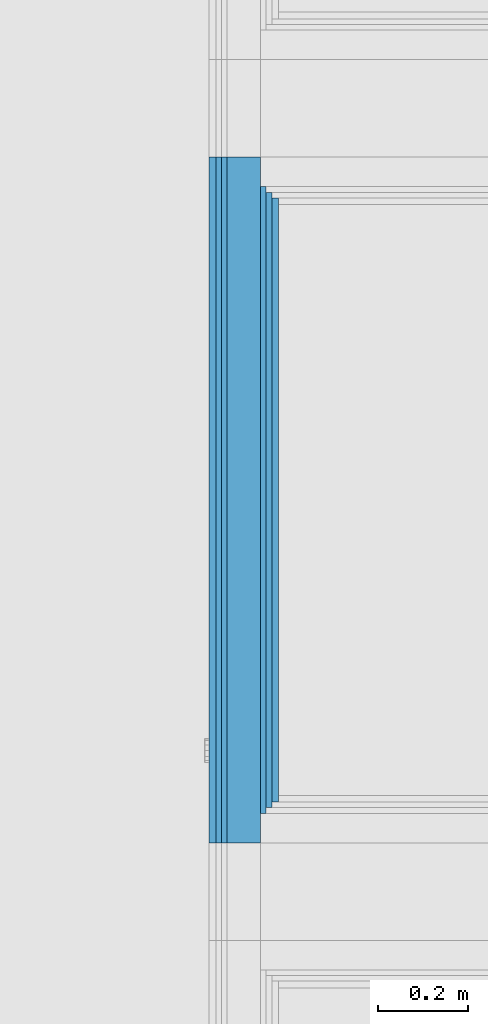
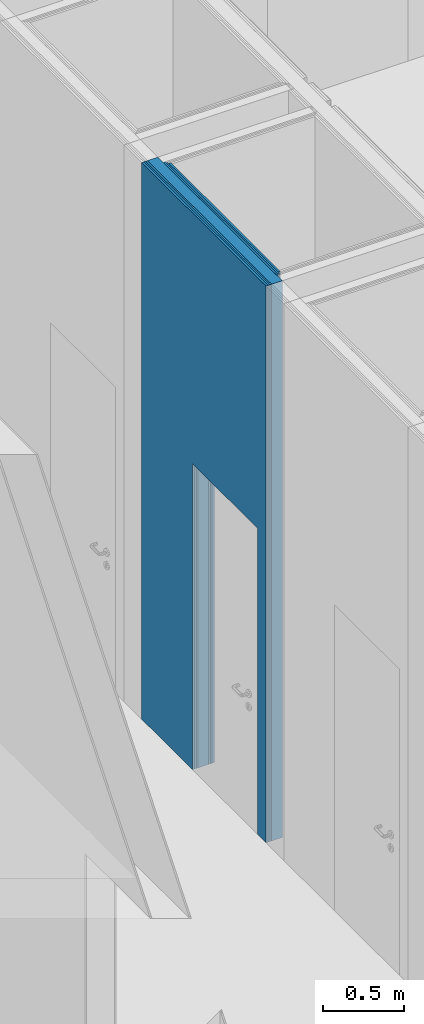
# One storey, part 61 of 260: 7 building element parts, 1 opening, 1 element without a shape of its own.
"""IFC2X3 building model written with IfcOpenShell, lengths in millimetres."""

from ifc_helpers import new_model, entity, si_unit, converted_unit, derived_unit, money_unit, direction, frame, origin_with_axes, place, context, subcontext, project, spatial, faceted_brep, material, type_object, element, aggregate, save


model = new_model("IFC2X3")

# Units and contexts
model_context = context("Model", 3, precision=0.01, world=origin_with_axes(), true_north=direction((0.0, 1.0)))
body_context = subcontext(model_context, "Body", "Model", "MODEL_VIEW")
ifc_project = project(units=[si_unit("LENGTHUNIT", "METRE", prefix="MILLI"), si_unit("AREAUNIT", "SQUARE_METRE"), si_unit("VOLUMEUNIT", "CUBIC_METRE"), converted_unit("PLANEANGLEUNIT", "DEGREE", entity("IfcPlaneAngleMeasure", 0.0174532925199), si_unit("PLANEANGLEUNIT", "RADIAN"), dimensions=[0, 0, 0, 0, 0, 0, 0]), money_unit("EUR"), converted_unit("TIMEUNIT", "Year", entity("IfcTimeMeasure", 31556926.0), si_unit("TIMEUNIT", "SECOND"), dimensions=[0, 0, 1, 0, 0, 0, 0]), si_unit("MASSUNIT", "GRAM", prefix="KILO"), si_unit("THERMODYNAMICTEMPERATUREUNIT", "DEGREE_CELSIUS"), si_unit("LUMINOUSINTENSITYUNIT", "LUMEN"), si_unit("ENERGYUNIT", "JOULE", prefix="MEGA"), derived_unit("THERMALCONDUCTANCEUNIT", [(si_unit("POWERUNIT", "WATT"), 1), (si_unit("LENGTHUNIT", "METRE"), -1), (si_unit("THERMODYNAMICTEMPERATUREUNIT", "KELVIN"), -1)]), derived_unit("SPECIFICHEATCAPACITYUNIT", [(si_unit("ENERGYUNIT", "JOULE"), 1), (si_unit("MASSUNIT", "GRAM", prefix="KILO"), -1), (si_unit("THERMODYNAMICTEMPERATUREUNIT", "KELVIN"), -1)]), derived_unit("MASSDENSITYUNIT", [(si_unit("MASSUNIT", "GRAM", prefix="KILO"), 1), (si_unit("VOLUMEUNIT", "CUBIC_METRE"), -1)])], contexts=[model_context])

# Site, building, storey
site_placement = place(None, origin_with_axes())
site = spatial("IfcSite", under=ifc_project, at=site_placement, Name="Kolde pst 67a", CompositionType="ELEMENT")
building_placement = place(site_placement, origin_with_axes())
building = spatial("IfcBuilding", under=site, at=building_placement, Name="Riigigümnaasium", CompositionType="ELEMENT")
storey_placement = place(building_placement, origin_with_axes())
storey = spatial("IfcBuildingStorey", under=building, at=storey_placement, Name="1. korrus", CompositionType="ELEMENT", Elevation=0.0)

# Wall, opening, building element parts
wall_type = type_object("IfcWallType", Name="SS-MK-7,5/1_plaaditud 155", PredefinedType="NOTDEFINED")
wall_placement = place(storey_placement, frame((66260.8875355, 16993.9999712, 0.0), z_axis=(0.0, 0.0, 1.0), x_axis=(0.0, 1.0, 0.0)))
wall = element("IfcWall", 1, at=wall_placement, inside=storey, type_object=wall_type, Name="Sisesein")
opening_placement = place(wall_placement, frame((505.999998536, 0.0, 0.0), z_axis=(0.0, 0.0, 1.0), x_axis=(1.0, 0.0, 0.0)))
element("IfcOpeningElement", 2, at=opening_placement, cuts=wall, Name="Siseuks", context=body_context, shape_type="Brep", body=[
    faceted_brep([(400.0, -155.0, 2300.0), (400.0, -155.0, 0.0), (400.0, 310.0, 0.0), (400.0, 310.0, 2300.0), (-400.0, -155.0, 2300.0), (-400.0, -155.0, 0.0), (-400.0, 310.0, 0.0), (-400.0, 310.0, 2300.0)], [[[0, 1, 2, 3]], [[0, 4, 5, 1]], [[1, 5, 6, 2]], [[3, 2, 6, 7]], [[4, 0, 3, 7]], [[5, 4, 7, 6]]]),
])
ifc_material_1 = material(Name="_VIIMISTLUSKIHT - viimistlus vastavalt SA osale")
building_element_part_1_placement = place(wall_placement, origin_with_axes())
building_element_part_1 = element("IfcBuildingElementPart", 3, at=building_element_part_1_placement, material=ifc_material_1, Name="_VIIMISTLUSKIHT - viimistlus vastavalt SA osale", context=body_context, shape_type="Brep", body=[
    faceted_brep([(105.999998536, -15.0, 0.0), (105.999998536, -15.0, 2300.0), (905.999998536, -15.0, 2300.0), (905.999998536, -15.0, 0.0), (1532.07687759, -15.0, 0.0), (1532.07687759, -15.0, 4185.0), (0.0, -15.0, 4185.0), (0.0, -15.0, 0.0), (105.999998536, 0.0, 0.0), (105.999998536, 0.0, 2300.0), (905.999998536, 0.0, 2300.0), (905.999998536, 0.0, 0.0), (1532.07687759, 0.0, 0.0), (1532.07687759, 0.0, 4185.0), (0.0, 0.0, 4185.0), (0.0, 0.0, 0.0)], [[[0, 1, 2, 3, 4, 5, 6, 7]], [[1, 0, 8, 9]], [[2, 1, 9, 10]], [[3, 2, 10, 11]], [[3, 11, 12, 4]], [[5, 4, 12, 13]], [[5, 13, 14, 6]], [[14, 15, 7, 6]], [[8, 0, 7, 15]], [[9, 8, 15, 14, 13, 12, 11, 10]]]),
])
ifc_material_2 = material(Name="_PLAATMATERJAL - kipsplaat veekindel")
building_element_part_2_placement = place(wall_placement, origin_with_axes())
building_element_part_2 = element("IfcBuildingElementPart", 4, at=building_element_part_2_placement, material=ifc_material_2, Name="_PLAATMATERJAL - kipsplaat veekindel", context=body_context, shape_type="Brep", body=[
    faceted_brep([(105.999998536, -27.5, 0.0), (105.999998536, -27.5, 2300.0), (905.999998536, -27.5, 2300.0), (905.999998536, -27.5, 0.0), (1532.07687759, -27.5, 0.0), (1532.07687759, -27.5, 4185.0), (0.0, -27.5, 4185.0), (0.0, -27.5, 0.0), (105.999998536, -15.0, 0.0), (105.999998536, -15.0, 2300.0), (905.999998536, -15.0, 2300.0), (905.999998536, -15.0, 0.0), (1532.07687759, -15.0, 0.0), (1532.07687759, -15.0, 4185.0), (0.0, -15.0, 4185.0), (0.0, -15.0, 0.0)], [[[0, 1, 2, 3, 4, 5, 6, 7]], [[1, 0, 8, 9]], [[2, 1, 9, 10]], [[3, 2, 10, 11]], [[3, 11, 12, 4]], [[5, 4, 12, 13]], [[5, 13, 14, 6]], [[14, 15, 7, 6]], [[8, 0, 7, 15]], [[9, 8, 15, 14, 13, 12, 11, 10]]]),
])
building_element_part_3_placement = place(wall_placement, origin_with_axes())
building_element_part_3 = element("IfcBuildingElementPart", 5, at=building_element_part_3_placement, material=ifc_material_2, Name="_PLAATMATERJAL - kipsplaat veekindel", context=body_context, shape_type="Brep", body=[
    faceted_brep([(105.999998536, -40.0, 0.0), (105.999998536, -40.0, 2300.0), (905.999998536, -40.0, 2300.0), (905.999998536, -40.0, 0.0), (1532.07687759, -40.0, 0.0), (1532.07687759, -40.0, 4185.0), (0.0, -40.0, 4185.0), (0.0, -40.0, 0.0), (105.999998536, -27.5, 0.0), (105.999998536, -27.5, 2300.0), (905.999998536, -27.5, 2300.0), (905.999998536, -27.5, 0.0), (1532.07687759, -27.5, 0.0), (1532.07687759, -27.5, 4185.0), (0.0, -27.5, 4185.0), (0.0, -27.5, 0.0)], [[[0, 1, 2, 3, 4, 5, 6, 7]], [[1, 0, 8, 9]], [[2, 1, 9, 10]], [[3, 2, 10, 11]], [[3, 11, 12, 4]], [[5, 4, 12, 13]], [[5, 13, 14, 6]], [[14, 15, 7, 6]], [[8, 0, 7, 15]], [[9, 8, 15, 14, 13, 12, 11, 10]]]),
])
ifc_material_3 = material(Name="_KARKASS - metallkarkass CW 75/50, mineraalvill karkassi vahel")
building_element_part_4_placement = place(wall_placement, origin_with_axes())
building_element_part_4 = element("IfcBuildingElementPart", 6, at=building_element_part_4_placement, material=ifc_material_3, Name="_KARKASS - metallkarkass CW 75/50, mineraalvill karkassi vahel", context=body_context, shape_type="Brep", body=[
    faceted_brep([(105.999998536, -115.0, 0.0), (105.999998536, -115.0, 2300.0), (905.999998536, -115.0, 2300.0), (905.999998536, -115.0, 0.0), (1532.07687759, -115.0, 0.0), (1532.07687759, -115.0, 4185.0), (0.0, -115.0, 4185.0), (0.0, -115.0, 0.0), (105.999998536, -40.0, 0.0), (105.999998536, -40.0, 2300.0), (905.999998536, -40.0, 2300.0), (905.999998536, -40.0, 0.0), (1532.07687759, -40.0, 0.0), (1532.07687759, -40.0, 4185.0), (0.0, -40.0, 4185.0), (0.0, -40.0, 0.0)], [[[0, 1, 2, 3, 4, 5, 6, 7]], [[1, 0, 8, 9]], [[2, 1, 9, 10]], [[3, 2, 10, 11]], [[3, 11, 12, 4]], [[5, 4, 12, 13]], [[5, 13, 14, 6]], [[14, 15, 7, 6]], [[8, 0, 7, 15]], [[9, 8, 15, 14, 13, 12, 11, 10]]]),
])
building_element_part_5_placement = place(wall_placement, origin_with_axes())
building_element_part_5 = element("IfcBuildingElementPart", 7, at=building_element_part_5_placement, material=ifc_material_2, Name="_PLAATMATERJAL - kipsplaat veekindel", context=body_context, shape_type="Brep", body=[
    faceted_brep([(105.999998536, -127.5, 0.0), (105.999998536, -127.5, 2300.0), (905.999998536, -127.5, 2300.0), (905.999998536, -127.5, 0.0), (1466.07688668, -127.5, 0.0), (1466.07688668, -127.5, 4185.0), (66.0, -127.5, 4185.0), (66.0, -127.5, 0.0), (105.999998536, -115.0, 0.0), (105.999998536, -115.0, 2300.0), (905.999998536, -115.0, 2300.0), (905.999998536, -115.0, 0.0), (1466.07687759, -115.0, 0.0), (1466.07687759, -115.0, 4185.0), (66.0, -115.0, 4185.0), (66.0, -115.0, 0.0)], [[[0, 1, 2, 3, 4, 5, 6, 7]], [[1, 0, 8, 9]], [[2, 1, 9, 10]], [[3, 2, 10, 11]], [[3, 11, 12, 4]], [[5, 4, 12, 13]], [[5, 13, 14, 6]], [[14, 15, 7, 6]], [[8, 0, 7, 15]], [[9, 8, 15, 14, 13, 12, 11, 10]]]),
])
building_element_part_6_placement = place(wall_placement, origin_with_axes())
building_element_part_6 = element("IfcBuildingElementPart", 8, at=building_element_part_6_placement, material=ifc_material_2, Name="_PLAATMATERJAL - kipsplaat veekindel", context=body_context, shape_type="Brep", body=[
    faceted_brep([(105.999998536, -140.0, 0.0), (105.999998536, -140.0, 2300.0), (905.999998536, -140.0, 2300.0), (905.999998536, -140.0, 0.0), (1453.57689577, -140.0, 0.0), (1453.57689577, -140.0, 4185.0), (78.5, -140.0, 4185.0), (78.5, -140.0, 0.0), (105.999998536, -127.5, 0.0), (105.999998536, -127.5, 2300.0), (905.999998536, -127.5, 2300.0), (905.999998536, -127.5, 0.0), (1453.57688668, -127.5, 0.0), (1453.57688668, -127.5, 4185.0), (78.5, -127.5, 4185.0), (78.5, -127.5, 0.0)], [[[0, 1, 2, 3, 4, 5, 6, 7]], [[1, 0, 8, 9]], [[2, 1, 9, 10]], [[3, 2, 10, 11]], [[3, 11, 12, 4]], [[5, 4, 12, 13]], [[5, 13, 14, 6]], [[14, 15, 7, 6]], [[8, 0, 7, 15]], [[9, 8, 15, 14, 13, 12, 11, 10]]]),
])
building_element_part_7_placement = place(wall_placement, origin_with_axes())
building_element_part_7 = element("IfcBuildingElementPart", 9, at=building_element_part_7_placement, material=ifc_material_1, Name="_VIIMISTLUSKIHT - viimistlus vastavalt SA osale", context=body_context, shape_type="Brep", body=[
    faceted_brep([(105.999998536, -155.0, 0.0), (105.999998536, -155.0, 2300.0), (905.999998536, -155.0, 2300.0), (905.999998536, -155.0, 0.0), (1441.07690668, -155.0, 0.0), (1441.07690668, -155.0, 4185.0), (91.0, -155.0, 4185.0), (91.0, -155.0, 0.0), (105.999998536, -140.0, 0.0), (105.999998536, -140.0, 2300.0), (905.999998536, -140.0, 2300.0), (905.999998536, -140.0, 0.0), (1441.07689577, -140.0, 0.0), (1441.07689577, -140.0, 4185.0), (91.0, -140.0, 4185.0), (91.0, -140.0, 0.0)], [[[0, 1, 2, 3, 4, 5, 6, 7]], [[1, 0, 8, 9]], [[2, 1, 9, 10]], [[3, 2, 10, 11]], [[3, 11, 12, 4]], [[5, 4, 12, 13]], [[5, 13, 14, 6]], [[14, 15, 7, 6]], [[8, 0, 7, 15]], [[9, 8, 15, 14, 13, 12, 11, 10]]]),
])
aggregate(wall, [building_element_part_1, building_element_part_2, building_element_part_3, building_element_part_4, building_element_part_5, building_element_part_6, building_element_part_7])

save(model, "model.ifc")
